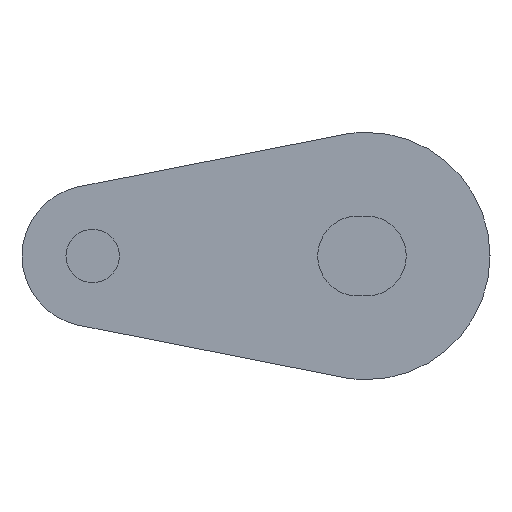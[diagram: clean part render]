
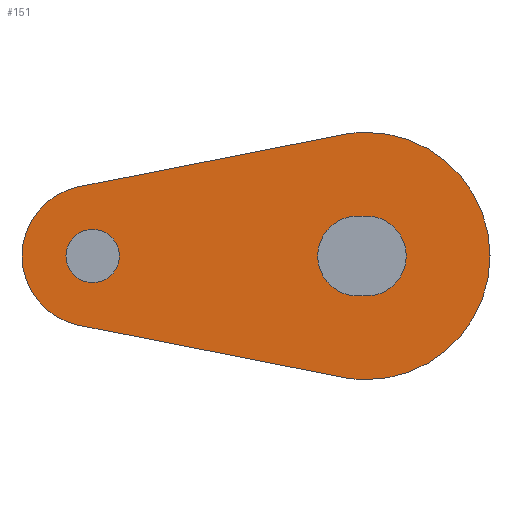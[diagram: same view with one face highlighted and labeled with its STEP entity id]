
A CAD part, left-side view. The second image highlights one B-rep face of the part: STEP entity #151.
In plain terms, the highlighted planar face has unit normal (-1, 0, 0).
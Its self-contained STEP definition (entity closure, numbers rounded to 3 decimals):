
#4 = EDGE_CURVE ( 'NONE', #832, #828, #154, .T. ) ;
#11 = AXIS2_PLACEMENT_3D ( 'NONE', #983, #984, #972 ) ;
#15 = AXIS2_PLACEMENT_3D ( 'NONE', #875, #811, #860 ) ;
#28 = EDGE_CURVE ( 'NONE', #883, #814, #358, .T. ) ;
#29 = EDGE_CURVE ( 'NONE', #821, #892, #356, .T. ) ;
#32 = EDGE_CURVE ( 'NONE', #813, #849, #351, .T. ) ;
#33 = EDGE_CURVE ( 'NONE', #892, #813, #354, .T. ) ;
#40 = AXIS2_PLACEMENT_3D ( 'NONE', #973, #965, #966 ) ;
#46 = EDGE_CURVE ( 'NONE', #814, #821, #341, .T. ) ;
#49 = EDGE_CURVE ( 'NONE', #806, #836, #331, .T. ) ;
#50 = EDGE_CURVE ( 'NONE', #828, #832, #327, .T. ) ;
#54 = EDGE_CURVE ( 'NONE', #836, #841, #322, .T. ) ;
#55 = EDGE_CURVE ( 'NONE', #808, #806, #320, .T. ) ;
#56 = EDGE_CURVE ( 'NONE', #841, #808, #324, .T. ) ;
#73 = AXIS2_PLACEMENT_3D ( 'NONE', #825, #834, #830 ) ;
#81 = AXIS2_PLACEMENT_3D ( 'NONE', #948, #950, #902 ) ;
#84 = AXIS2_PLACEMENT_3D ( 'NONE', #945, #934, #935 ) ;
#90 = AXIS2_PLACEMENT_3D ( 'NONE', #582, #375, #376 ) ;
#110 = EDGE_CURVE ( 'NONE', #849, #883, #266, .T. ) ;
#112 = AXIS2_PLACEMENT_3D ( 'NONE', #940, #941, #942 ) ;
#151 = ADVANCED_FACE ( 'NONE', ( #207, #206, #201 ), #566, .T. ) ;
#154 = CIRCLE ( 'NONE', #73, 1.51 ) ;
#201 = FACE_OUTER_BOUND ( 'NONE', #625, .T. ) ;
#206 = FACE_BOUND ( 'NONE', #626, .T. ) ;
#207 = FACE_BOUND ( 'NONE', #686, .T. ) ;
#266 = CIRCLE ( 'NONE', #90, 7. ) ;
#320 = CIRCLE ( 'NONE', #84, 2.26 ) ;
#322 = CIRCLE ( 'NONE', #81, 2.26 ) ;
#323 = VECTOR ( 'NONE', #937, 1000. ) ;
#324 = LINE ( 'NONE', #936, #323 ) ;
#327 = CIRCLE ( 'NONE', #112, 1.51 ) ;
#331 = LINE ( 'NONE', #895, #332 ) ;
#332 = VECTOR ( 'NONE', #939, 1000. ) ;
#333 = VECTOR ( 'NONE', #995, 1000. ) ;
#341 = LINE ( 'NONE', #990, #333 ) ;
#351 = CIRCLE ( 'NONE', #40, 7. ) ;
#353 = VECTOR ( 'NONE', #968, 1000. ) ;
#354 = LINE ( 'NONE', #967, #353 ) ;
#356 = CIRCLE ( 'NONE', #11, 4. ) ;
#358 = CIRCLE ( 'NONE', #15, 7. ) ;
#375 = DIRECTION ( 'NONE',  ( 1., 0., 0. ) ) ;
#376 = DIRECTION ( 'NONE',  ( 0., 0., -1. ) ) ;
#505 = CARTESIAN_POINT ( 'NONE',  ( -204.5, 0., -2.26 ) ) ;
#506 = CARTESIAN_POINT ( 'NONE',  ( -204.5, 0., 7. ) ) ;
#514 = CARTESIAN_POINT ( 'NONE',  ( -204.5, 16.274, 3.924 ) ) ;
#527 = CARTESIAN_POINT ( 'NONE',  ( -204.5, 0., -7. ) ) ;
#539 = CARTESIAN_POINT ( 'NONE',  ( -204.5, 0.5, 2.26 ) ) ;
#540 = CARTESIAN_POINT ( 'NONE',  ( -204.5, 0.5, -2.26 ) ) ;
#547 = CARTESIAN_POINT ( 'NONE',  ( -204.5, 1.355, 6.868 ) ) ;
#559 = DIRECTION ( 'NONE',  ( -1., 0., 0. ) ) ;
#560 = DIRECTION ( 'NONE',  ( 0., 0., -1. ) ) ;
#561 = CARTESIAN_POINT ( 'NONE',  ( -204.5, 16.274, -3.924 ) ) ;
#566 = PLANE ( 'NONE',  #1066 ) ;
#567 = CARTESIAN_POINT ( 'NONE',  ( -204.5, 15.5, 0. ) ) ;
#571 = CARTESIAN_POINT ( 'NONE',  ( -204.5, 1.355, -6.868 ) ) ;
#574 = CARTESIAN_POINT ( 'NONE',  ( -204.5, 15.5, 1.51 ) ) ;
#575 = CARTESIAN_POINT ( 'NONE',  ( -204.5, 15.5, -1.51 ) ) ;
#578 = CARTESIAN_POINT ( 'NONE',  ( -204.5, 0., 2.26 ) ) ;
#582 = CARTESIAN_POINT ( 'NONE',  ( -204.5, 0., 0. ) ) ;
#625 = EDGE_LOOP ( 'NONE', ( #704, #718, #677, #689, #696, #697 ) ) ;
#626 = EDGE_LOOP ( 'NONE', ( #702, #703 ) ) ;
#677 = ORIENTED_EDGE ( 'NONE', *, *, #28, .F. ) ;
#686 = EDGE_LOOP ( 'NONE', ( #709, #693, #706, #707 ) ) ;
#689 = ORIENTED_EDGE ( 'NONE', *, *, #110, .F. ) ;
#693 = ORIENTED_EDGE ( 'NONE', *, *, #49, .T. ) ;
#696 = ORIENTED_EDGE ( 'NONE', *, *, #32, .F. ) ;
#697 = ORIENTED_EDGE ( 'NONE', *, *, #33, .F. ) ;
#702 = ORIENTED_EDGE ( 'NONE', *, *, #4, .T. ) ;
#703 = ORIENTED_EDGE ( 'NONE', *, *, #50, .T. ) ;
#704 = ORIENTED_EDGE ( 'NONE', *, *, #29, .F. ) ;
#706 = ORIENTED_EDGE ( 'NONE', *, *, #54, .T. ) ;
#707 = ORIENTED_EDGE ( 'NONE', *, *, #56, .T. ) ;
#709 = ORIENTED_EDGE ( 'NONE', *, *, #55, .T. ) ;
#718 = ORIENTED_EDGE ( 'NONE', *, *, #46, .F. ) ;
#806 = VERTEX_POINT ( 'NONE', #539 ) ;
#808 = VERTEX_POINT ( 'NONE', #540 ) ;
#811 = DIRECTION ( 'NONE',  ( 1., 0., 0. ) ) ;
#813 = VERTEX_POINT ( 'NONE', #547 ) ;
#814 = VERTEX_POINT ( 'NONE', #571 ) ;
#821 = VERTEX_POINT ( 'NONE', #561 ) ;
#825 = CARTESIAN_POINT ( 'NONE',  ( -204.5, 15.5, 0. ) ) ;
#828 = VERTEX_POINT ( 'NONE', #574 ) ;
#830 = DIRECTION ( 'NONE',  ( 0., 0., -1. ) ) ;
#832 = VERTEX_POINT ( 'NONE', #575 ) ;
#834 = DIRECTION ( 'NONE',  ( 1., 0., 0. ) ) ;
#836 = VERTEX_POINT ( 'NONE', #578 ) ;
#841 = VERTEX_POINT ( 'NONE', #505 ) ;
#849 = VERTEX_POINT ( 'NONE', #506 ) ;
#860 = DIRECTION ( 'NONE',  ( 0., 0., -1. ) ) ;
#875 = CARTESIAN_POINT ( 'NONE',  ( -204.5, 0., 0. ) ) ;
#883 = VERTEX_POINT ( 'NONE', #527 ) ;
#892 = VERTEX_POINT ( 'NONE', #514 ) ;
#895 = CARTESIAN_POINT ( 'NONE',  ( -204.5, 0.5, 2.26 ) ) ;
#902 = DIRECTION ( 'NONE',  ( 0., 0., -1. ) ) ;
#934 = DIRECTION ( 'NONE',  ( 1., 0., 0. ) ) ;
#935 = DIRECTION ( 'NONE',  ( 0., 0., -1. ) ) ;
#936 = CARTESIAN_POINT ( 'NONE',  ( -204.5, 0.5, -2.26 ) ) ;
#937 = DIRECTION ( 'NONE',  ( 0., 1., 0. ) ) ;
#939 = DIRECTION ( 'NONE',  ( 0., -1., 0. ) ) ;
#940 = CARTESIAN_POINT ( 'NONE',  ( -204.5, 15.5, 0. ) ) ;
#941 = DIRECTION ( 'NONE',  ( 1., 0., 0. ) ) ;
#942 = DIRECTION ( 'NONE',  ( 0., 0., -1. ) ) ;
#945 = CARTESIAN_POINT ( 'NONE',  ( -204.5, 0.5, 0. ) ) ;
#948 = CARTESIAN_POINT ( 'NONE',  ( -204.5, 0., 0. ) ) ;
#950 = DIRECTION ( 'NONE',  ( 1., 0., 0. ) ) ;
#965 = DIRECTION ( 'NONE',  ( 1., 0., 0. ) ) ;
#966 = DIRECTION ( 'NONE',  ( 0., 0., -1. ) ) ;
#967 = CARTESIAN_POINT ( 'NONE',  ( -204.5, 16.274, 3.924 ) ) ;
#968 = DIRECTION ( 'NONE',  ( 0., -0.981, 0.194 ) ) ;
#972 = DIRECTION ( 'NONE',  ( 0., 0., -1. ) ) ;
#973 = CARTESIAN_POINT ( 'NONE',  ( -204.5, 0., 0. ) ) ;
#983 = CARTESIAN_POINT ( 'NONE',  ( -204.5, 15.5, 0. ) ) ;
#984 = DIRECTION ( 'NONE',  ( 1., 0., 0. ) ) ;
#990 = CARTESIAN_POINT ( 'NONE',  ( -204.5, 1.355, -6.868 ) ) ;
#995 = DIRECTION ( 'NONE',  ( 0., 0.981, 0.194 ) ) ;
#1066 = AXIS2_PLACEMENT_3D ( 'NONE', #567, #559, #560 ) ;
